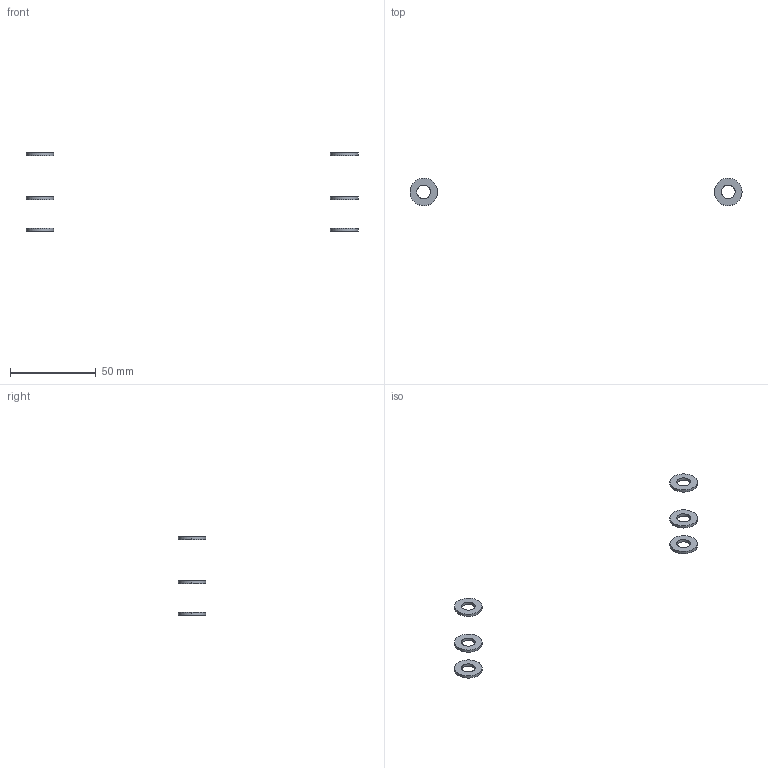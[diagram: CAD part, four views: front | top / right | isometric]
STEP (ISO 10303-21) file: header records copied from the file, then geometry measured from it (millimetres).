
FILE_DESCRIPTION(/* description */ (''),/* implementation_level */ '2;1');
FILE_NAME(/* name */ '240803-DIYUTM-8mmWashers',/* time_stamp */ '2024-08-03T10:08:33+02:00',/* author */ (''),/* organization */ (''),/* preprocessor_version */ 'ST-DEVELOPER v16.5',/* originating_system */ 'Rhino 7.37',/* authorisation */ '');
FILE_SCHEMA (('CONFIG_CONTROL_DESIGN'));
Length unit declared in the file: millimetre
Products named in the file (1): Document
Bounding box: 193.03 x 15.97 x 45.55 mm (x, y, z)
Volume: 1447.6 mm3; surface area: 2533.1 mm2
Topology: 6 solids, 6 shells, 36 faces, 72 edges, 48 vertices
Faces by surface type: cylinder 24, plane 12
Entity records: 980 total; most frequent: CARTESIAN_POINT 374, ORIENTED_EDGE 144, EDGE_CURVE 72, EDGE_LOOP 48, VERTEX_POINT 48, DIRECTION 40, AXIS2_PLACEMENT_3D 38, ADVANCED_FACE 36
